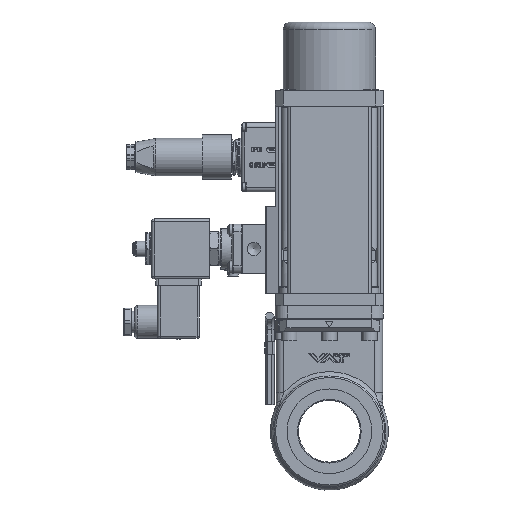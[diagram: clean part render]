
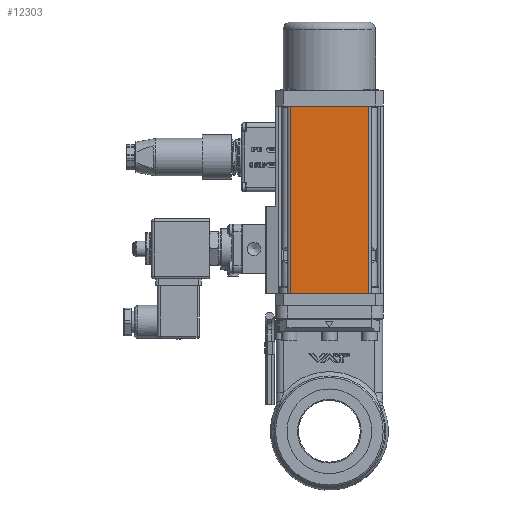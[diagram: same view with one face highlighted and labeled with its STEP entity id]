
A CAD part, front view. The second image highlights one B-rep face of the part: STEP entity #12303.
In plain terms, the highlighted planar face has unit normal (0, -1, 0).
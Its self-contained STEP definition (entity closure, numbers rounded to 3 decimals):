
#9920=FACE_OUTER_BOUND('',#16571,.T.);
#11275=PLANE('',#38109);
#12303=ADVANCED_FACE('',(#9920),#11275,.F.);
#16571=EDGE_LOOP('',(#23473,#23474,#23475,#23476));
#18786=LINE('',#49003,#20935);
#18809=LINE('',#49088,#20958);
#18814=LINE('',#49111,#20963);
#18815=LINE('',#49113,#20964);
#20935=VECTOR('',#40907,1.);
#20958=VECTOR('',#40996,1.);
#20963=VECTOR('',#41021,1.);
#20964=VECTOR('',#41024,1.);
#23473=ORIENTED_EDGE('',*,*,#34149,.F.);
#23474=ORIENTED_EDGE('',*,*,#34161,.F.);
#23475=ORIENTED_EDGE('',*,*,#34104,.T.);
#23476=ORIENTED_EDGE('',*,*,#34162,.T.);
#31305=VERTEX_POINT('',#49002);
#31306=VERTEX_POINT('',#49004);
#31334=VERTEX_POINT('',#49087);
#31335=VERTEX_POINT('',#49089);
#34104=EDGE_CURVE('',#31306,#31305,#18786,.T.);
#34149=EDGE_CURVE('',#31334,#31335,#18809,.T.);
#34161=EDGE_CURVE('',#31306,#31334,#18814,.T.);
#34162=EDGE_CURVE('',#31305,#31335,#18815,.T.);
#38109=AXIS2_PLACEMENT_3D('',#49114,#41025,#41026);
#40907=DIRECTION('',(1.,0.,0.));
#40996=DIRECTION('',(1.,0.,0.));
#41021=DIRECTION('',(0.,0.,1.));
#41024=DIRECTION('',(0.,0.,1.));
#41025=DIRECTION('',(0.,1.,0.));
#41026=DIRECTION('',(0.,0.,-1.));
#49002=CARTESIAN_POINT('',(25.079,-35.,-121.65));
#49003=CARTESIAN_POINT('',(-25.079,-35.,-121.65));
#49004=CARTESIAN_POINT('',(-25.079,-35.,-121.65));
#49087=CARTESIAN_POINT('',(-25.079,-35.,0.));
#49088=CARTESIAN_POINT('',(-25.079,-35.,0.));
#49089=CARTESIAN_POINT('',(25.079,-35.,0.));
#49111=CARTESIAN_POINT('',(-25.079,-35.,-121.65));
#49113=CARTESIAN_POINT('',(25.079,-35.,-121.65));
#49114=CARTESIAN_POINT('',(-25.079,-35.,-121.65));
